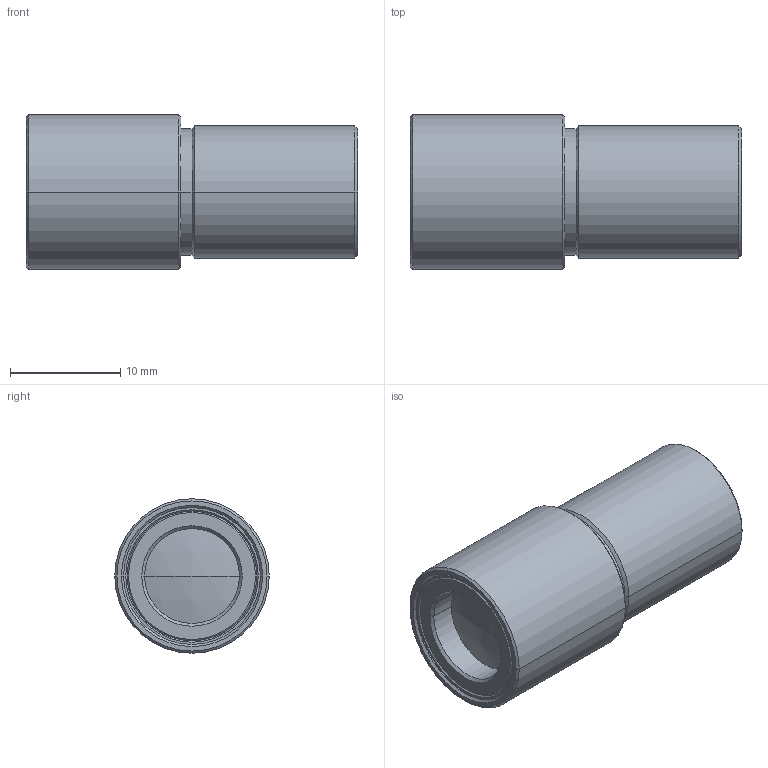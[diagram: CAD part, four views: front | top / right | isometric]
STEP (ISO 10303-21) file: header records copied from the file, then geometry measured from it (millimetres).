
FILE_DESCRIPTION (( 'STEP AP203' ), '1' );
FILE_NAME ('VS-MTC1-15.STEP', '2020-07-27T23:36:19', ( '' ), ( '' ), 'SwSTEP 2.0', 'SolidWorks 2018', '' );
FILE_SCHEMA (( 'CONFIG_CONTROL_DESIGN' ));
Length unit declared in the file: millimetre
Products named in the file (1): VS-MTC1-15
Bounding box: 30 x 14 x 14 mm (x, y, z)
Volume: 3723.5 mm3; surface area: 1624.2 mm2
Topology: 1 solids, 1 shells, 47 faces, 92 edges, 54 vertices
Faces by surface type: cone 22, cylinder 14, plane 7, sphere 4
Entity records: 1283 total; most frequent: DIRECTION 244, CARTESIAN_POINT 194, ORIENTED_EDGE 184, AXIS2_PLACEMENT_3D 104, EDGE_CURVE 92, CIRCLE 56, VERTEX_POINT 54, EDGE_LOOP 54
